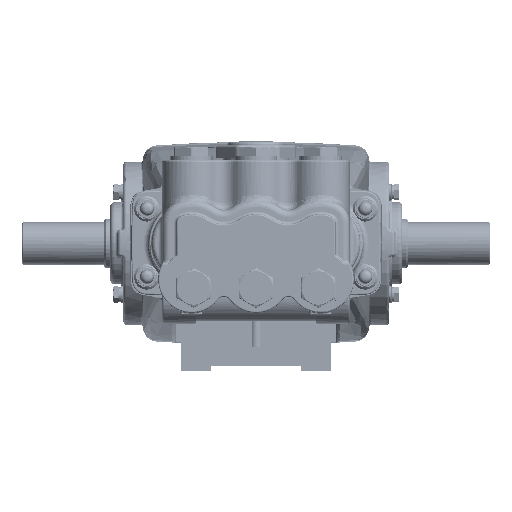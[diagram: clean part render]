
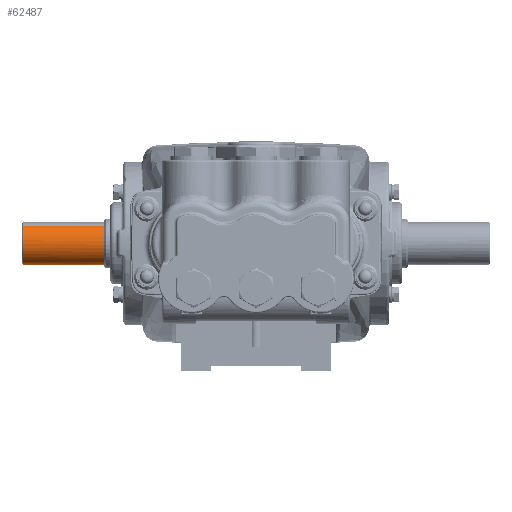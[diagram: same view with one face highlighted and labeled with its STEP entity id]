
A CAD part, top view. The second image highlights one B-rep face of the part: STEP entity #62487.
In plain terms, the highlighted cylindrical face has radius 15 mm (diameter 30 mm), a partial arc.
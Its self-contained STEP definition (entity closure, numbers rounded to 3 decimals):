
#62487 = ADVANCED_FACE ( 'NONE', ( #68106 ), #68112, .T. ) ;
#68106 = FACE_OUTER_BOUND ( 'NONE', #115720, .T. ) ;
#68111 = AXIS2_PLACEMENT_3D ( 'NONE', #121352, #121354, #121356 ) ;
#68112 = CYLINDRICAL_SURFACE ( 'NONE', #68111, 15. ) ;
#85513 = CIRCLE ( 'NONE', #223269, 15. ) ;
#85514 = CIRCLE ( 'NONE', #223272, 15. ) ;
#115720 = EDGE_LOOP ( 'NONE', ( #128417, #128421, #128419, #128423, #128425, #128427 ) ) ;
#121352 = CARTESIAN_POINT ( 'NONE',  ( -165., 0., -243.5 ) ) ;
#121354 = DIRECTION ( 'NONE',  ( 1., 0., 0. ) ) ;
#121356 = DIRECTION ( 'NONE',  ( 0., 0.833, 0.554 ) ) ;
#126083 = EDGE_CURVE ( 'NONE', #246020, #246022, #227781, .T. ) ;
#126085 = EDGE_CURVE ( 'NONE', #246020, #246021, #177856, .T. ) ;
#126088 = EDGE_CURVE ( 'NONE', #246023, #246022, #85513, .T. ) ;
#126090 = EDGE_CURVE ( 'NONE', #246018, #246023, #227810, .T. ) ;
#126092 = EDGE_CURVE ( 'NONE', #246018, #246024, #85514, .T. ) ;
#126095 = EDGE_CURVE ( 'NONE', #246024, #246021, #227822, .T. ) ;
#128417 = ORIENTED_EDGE ( 'NONE', *, *, #126085, .F. ) ;
#128419 = ORIENTED_EDGE ( 'NONE', *, *, #126088, .F. ) ;
#128421 = ORIENTED_EDGE ( 'NONE', *, *, #126083, .T. ) ;
#128423 = ORIENTED_EDGE ( 'NONE', *, *, #126090, .F. ) ;
#128425 = ORIENTED_EDGE ( 'NONE', *, *, #126092, .T. ) ;
#128427 = ORIENTED_EDGE ( 'NONE', *, *, #126095, .T. ) ;
#158292 = CARTESIAN_POINT ( 'NONE',  ( -164., 12.489, -235.193 ) ) ;
#158296 = CARTESIAN_POINT ( 'NONE',  ( -110., -12.489, -251.807 ) ) ;
#158298 = CARTESIAN_POINT ( 'NONE',  ( -110.747, -14.253, -248.176 ) ) ;
#158299 = CARTESIAN_POINT ( 'NONE',  ( -107., -12.489, -251.807 ) ) ;
#158301 = CARTESIAN_POINT ( 'NONE',  ( -107., 12.489, -235.193 ) ) ;
#158303 = CARTESIAN_POINT ( 'NONE',  ( -164., -14.253, -248.176 ) ) ;
#177856 = B_SPLINE_CURVE_WITH_KNOTS ( 'NONE', 3,
 ( #227779, #227787, #227789, #227791, #227793, #227795, #227797, #227800 ),
 .UNSPECIFIED., .F., .F.,
 ( 4, 2, 2, 4 ),
 ( 0.037, 0.039, 0.04, 0.041 ),
 .UNSPECIFIED. ) ;
#223269 = AXIS2_PLACEMENT_3D ( 'NONE', #227802, #227804, #227806 ) ;
#223272 = AXIS2_PLACEMENT_3D ( 'NONE', #227808, #227816, #227818 ) ;
#223275 = VECTOR ( 'NONE', #227785, 1000. ) ;
#223280 = VECTOR ( 'NONE', #227814, 1000. ) ;
#223288 = VECTOR ( 'NONE', #227826, 1000. ) ;
#227779 = CARTESIAN_POINT ( 'NONE',  ( -110., -12.489, -251.807 ) ) ;
#227781 = LINE ( 'NONE', #227783, #223275 ) ;
#227783 = CARTESIAN_POINT ( 'NONE',  ( -165., -12.489, -251.807 ) ) ;
#227785 = DIRECTION ( 'NONE',  ( 1., 0., 0. ) ) ;
#227787 = CARTESIAN_POINT ( 'NONE',  ( -110., -12.871, -251.233 ) ) ;
#227789 = CARTESIAN_POINT ( 'NONE',  ( -110.061, -13.21, -250.638 ) ) ;
#227791 = CARTESIAN_POINT ( 'NONE',  ( -110.249, -13.656, -249.715 ) ) ;
#227793 = CARTESIAN_POINT ( 'NONE',  ( -110.328, -13.793, -249.404 ) ) ;
#227795 = CARTESIAN_POINT ( 'NONE',  ( -110.515, -14.041, -248.788 ) ) ;
#227797 = CARTESIAN_POINT ( 'NONE',  ( -110.623, -14.152, -248.481 ) ) ;
#227800 = CARTESIAN_POINT ( 'NONE',  ( -110.747, -14.253, -248.176 ) ) ;
#227802 = CARTESIAN_POINT ( 'NONE',  ( -107., 0., -243.5 ) ) ;
#227804 = DIRECTION ( 'NONE',  ( 1., 0., 0. ) ) ;
#227806 = DIRECTION ( 'NONE',  ( 0., -0.833, -0.554 ) ) ;
#227808 = CARTESIAN_POINT ( 'NONE',  ( -164., 0., -243.5 ) ) ;
#227810 = LINE ( 'NONE', #227812, #223280 ) ;
#227812 = CARTESIAN_POINT ( 'NONE',  ( -165., 12.489, -235.193 ) ) ;
#227814 = DIRECTION ( 'NONE',  ( 1., 0., 0. ) ) ;
#227816 = DIRECTION ( 'NONE',  ( 1., 0., 0. ) ) ;
#227818 = DIRECTION ( 'NONE',  ( 0., -0.833, -0.554 ) ) ;
#227822 = LINE ( 'NONE', #227824, #223288 ) ;
#227824 = CARTESIAN_POINT ( 'NONE',  ( -165., -14.253, -248.176 ) ) ;
#227826 = DIRECTION ( 'NONE',  ( 1., 0., 0. ) ) ;
#246018 = VERTEX_POINT ( 'NONE', #158292 ) ;
#246020 = VERTEX_POINT ( 'NONE', #158296 ) ;
#246021 = VERTEX_POINT ( 'NONE', #158298 ) ;
#246022 = VERTEX_POINT ( 'NONE', #158299 ) ;
#246023 = VERTEX_POINT ( 'NONE', #158301 ) ;
#246024 = VERTEX_POINT ( 'NONE', #158303 ) ;
